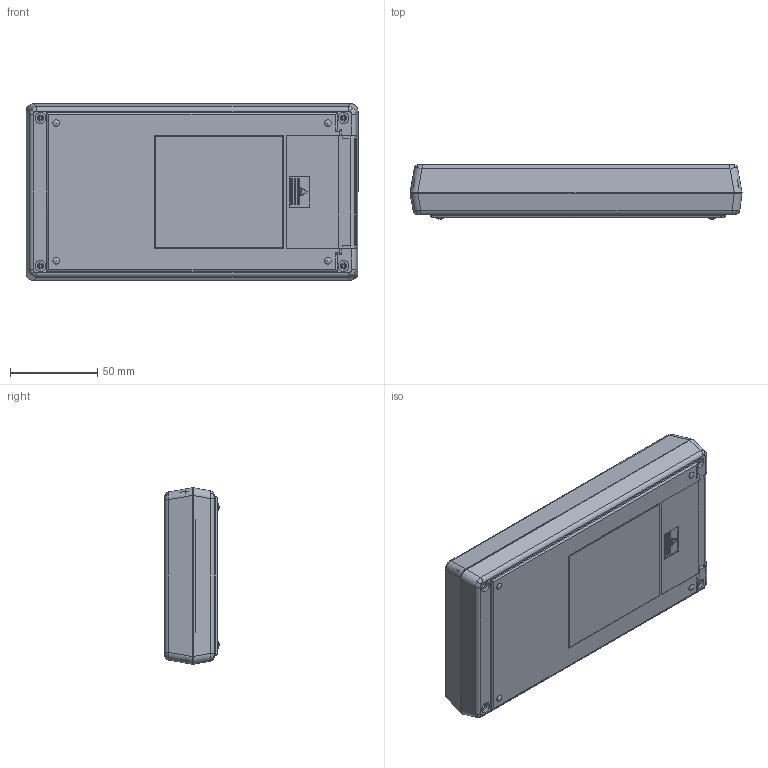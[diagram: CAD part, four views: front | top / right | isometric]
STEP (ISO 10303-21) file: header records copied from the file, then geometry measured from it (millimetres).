
FILE_DESCRIPTION (( 'STEP AP214' ), '1' );
FILE_NAME ('101-41-9V-R.STEP', '2019-12-01T01:30:04', ( 'Rudy' ), ( '' ), 'SwSTEP 2.0', 'SolidWorks 2014', '' );
FILE_SCHEMA (( 'AUTOMOTIVE_DESIGN' ));
Length unit declared in the file: millimetre
Products named in the file (4): 9Vdoor; 100-04-LCD Top; 100-01 BOT-9V; 101-41-9V-R
Assembly tree (3 placements, depth 2):
  101-41-9V-R
    100-01 BOT-9V
    100-04-LCD Top
    9Vdoor
Bounding box: 190.6 x 31.3 x 101.4 mm (x, y, z)
Volume: 111903.1 mm3; surface area: 120902.8 mm2
Topology: 3 solids, 3 shells, 614 faces, 1608 edges, 996 vertices
Faces by surface type: plane 339, cylinder 185, bspline 44, cone 26, torus 12, sphere 8
Entity records: 20032 total; most frequent: CARTESIAN_POINT 5517, ORIENTED_EDGE 3136, DIRECTION 2793, EDGE_CURVE 1568, LINE 1043, VECTOR 1043, VERTEX_POINT 988, AXIS2_PLACEMENT_3D 875
